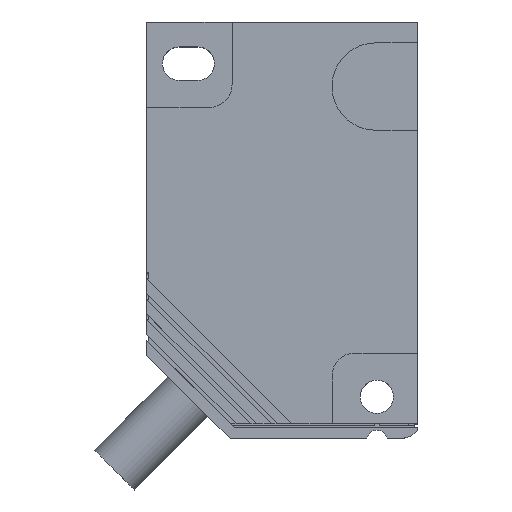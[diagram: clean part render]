
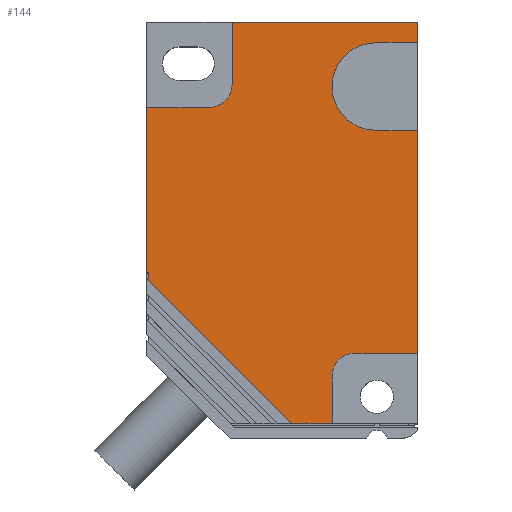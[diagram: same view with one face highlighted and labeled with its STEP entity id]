
A CAD part, top view. The second image highlights one B-rep face of the part: STEP entity #144.
In plain terms, the highlighted planar face has unit normal (0, 0, 1).
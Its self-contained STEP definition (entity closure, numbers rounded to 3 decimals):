
#144 = ADVANCED_FACE( '', ( #424 ), #425, .T. );
#424 = FACE_OUTER_BOUND( '', #846, .T. );
#425 = PLANE( '', #847 );
#846 = EDGE_LOOP( '', ( #1712, #1713, #1714, #1715, #1716, #1717, #1718, #1719, #1720, #1721, #1722, #1723, #1724, #1725, #1726, #1727, #1728, #1729 ) );
#847 = AXIS2_PLACEMENT_3D( '', #1730, #1731, #1732 );
#1712 = ORIENTED_EDGE( '', *, *, #3019, .T. );
#1713 = ORIENTED_EDGE( '', *, *, #3020, .T. );
#1714 = ORIENTED_EDGE( '', *, *, #3021, .T. );
#1715 = ORIENTED_EDGE( '', *, *, #2787, .T. );
#1716 = ORIENTED_EDGE( '', *, *, #3022, .T. );
#1717 = ORIENTED_EDGE( '', *, *, #3023, .F. );
#1718 = ORIENTED_EDGE( '', *, *, #3024, .T. );
#1719 = ORIENTED_EDGE( '', *, *, #3025, .T. );
#1720 = ORIENTED_EDGE( '', *, *, #3026, .T. );
#1721 = ORIENTED_EDGE( '', *, *, #3027, .F. );
#1722 = ORIENTED_EDGE( '', *, *, #3028, .T. );
#1723 = ORIENTED_EDGE( '', *, *, #3029, .T. );
#1724 = ORIENTED_EDGE( '', *, *, #3030, .T. );
#1725 = ORIENTED_EDGE( '', *, *, #3031, .T. );
#1726 = ORIENTED_EDGE( '', *, *, #3032, .F. );
#1727 = ORIENTED_EDGE( '', *, *, #3033, .T. );
#1728 = ORIENTED_EDGE( '', *, *, #3034, .T. );
#1729 = ORIENTED_EDGE( '', *, *, #3035, .F. );
#1730 = CARTESIAN_POINT( '', ( 7., 6., 5.75 ) );
#1731 = DIRECTION( '', ( 0., 0., 1. ) );
#1732 = DIRECTION( '', ( 1., 0., 0. ) );
#2787 = EDGE_CURVE( '', #3357, #3355, #3358, .T. );
#3019 = EDGE_CURVE( '', #3761, #3762, #3763, .T. );
#3020 = EDGE_CURVE( '', #3762, #3764, #3765, .T. );
#3021 = EDGE_CURVE( '', #3764, #3357, #3766, .T. );
#3022 = EDGE_CURVE( '', #3355, #3767, #3768, .T. );
#3023 = EDGE_CURVE( '', #3769, #3767, #3770, .T. );
#3024 = EDGE_CURVE( '', #3769, #3771, #3772, .T. );
#3025 = EDGE_CURVE( '', #3771, #3773, #3774, .T. );
#3026 = EDGE_CURVE( '', #3773, #3775, #3776, .T. );
#3027 = EDGE_CURVE( '', #3777, #3775, #3778, .T. );
#3028 = EDGE_CURVE( '', #3777, #3779, #3780, .T. );
#3029 = EDGE_CURVE( '', #3779, #3781, #3782, .T. );
#3030 = EDGE_CURVE( '', #3781, #3783, #3784, .T. );
#3031 = EDGE_CURVE( '', #3783, #3785, #3786, .T. );
#3032 = EDGE_CURVE( '', #3787, #3785, #3788, .T. );
#3033 = EDGE_CURVE( '', #3787, #3789, #3790, .T. );
#3034 = EDGE_CURVE( '', #3789, #3791, #3792, .T. );
#3035 = EDGE_CURVE( '', #3761, #3791, #3793, .T. );
#3355 = VERTEX_POINT( '', #4267 );
#3357 = VERTEX_POINT( '', #4270 );
#3358 = LINE( '', #4271, #4272 );
#3761 = VERTEX_POINT( '', #4860 );
#3762 = VERTEX_POINT( '', #4861 );
#3763 = LINE( '', #4862, #4863 );
#3764 = VERTEX_POINT( '', #4864 );
#3765 = LINE( '', #4865, #4866 );
#3766 = LINE( '', #4867, #4868 );
#3767 = VERTEX_POINT( '', #4869 );
#3768 = LINE( '', #4870, #4871 );
#3769 = VERTEX_POINT( '', #4872 );
#3770 = CIRCLE( '', #4873, 2.2 );
#3771 = VERTEX_POINT( '', #4874 );
#3772 = LINE( '', #4875, #4876 );
#3773 = VERTEX_POINT( '', #4877 );
#3774 = LINE( '', #4878, #4879 );
#3775 = VERTEX_POINT( '', #4880 );
#3776 = LINE( '', #4881, #4882 );
#3777 = VERTEX_POINT( '', #4883 );
#3778 = CIRCLE( '', #4884, 4.2 );
#3779 = VERTEX_POINT( '', #4885 );
#3780 = LINE( '', #4886, #4887 );
#3781 = VERTEX_POINT( '', #4888 );
#3782 = LINE( '', #4889, #4890 );
#3783 = VERTEX_POINT( '', #4891 );
#3784 = LINE( '', #4892, #4893 );
#3785 = VERTEX_POINT( '', #4894 );
#3786 = LINE( '', #4895, #4896 );
#3787 = VERTEX_POINT( '', #4897 );
#3788 = CIRCLE( '', #4898, 2.2 );
#3789 = VERTEX_POINT( '', #4899 );
#3790 = LINE( '', #4900, #4901 );
#3791 = VERTEX_POINT( '', #4902 );
#3792 = LINE( '', #4903, #4904 );
#3793 = LINE( '', #4905, #4906 );
#4267 = CARTESIAN_POINT( '', ( 4.8, 1.4, 5.75 ) );
#4270 = CARTESIAN_POINT( '', ( 0.95, 1.4, 5.75 ) );
#4271 = CARTESIAN_POINT( '', ( 0.95, 1.4, 5.75 ) );
#4272 = VECTOR( '', #5421, 1000. );
#4860 = CARTESIAN_POINT( '', ( -12.8, 15.9, 5.75 ) );
#4861 = CARTESIAN_POINT( '', ( -12.8, 15.33, 5.75 ) );
#4862 = CARTESIAN_POINT( '', ( -12.8, 15.9, 5.75 ) );
#4863 = VECTOR( '', #5745, 1000. );
#4864 = CARTESIAN_POINT( '', ( -12.98, 15.33, 5.75 ) );
#4865 = CARTESIAN_POINT( '', ( -12.8, 15.33, 5.75 ) );
#4866 = VECTOR( '', #5746, 1000. );
#4867 = CARTESIAN_POINT( '', ( -13., 15.35, 5.75 ) );
#4868 = VECTOR( '', #5747, 1000. );
#4869 = CARTESIAN_POINT( '', ( 4.8, 6., 5.75 ) );
#4870 = CARTESIAN_POINT( '', ( 4.8, 1.4, 5.75 ) );
#4871 = VECTOR( '', #5748, 1000. );
#4872 = CARTESIAN_POINT( '', ( 7., 8.2, 5.75 ) );
#4873 = AXIS2_PLACEMENT_3D( '', #5749, #5750, #5751 );
#4874 = CARTESIAN_POINT( '', ( 13., 8.2, 5.75 ) );
#4875 = CARTESIAN_POINT( '', ( 7., 8.2, 5.75 ) );
#4876 = VECTOR( '', #5752, 1000. );
#4877 = CARTESIAN_POINT( '', ( 13., 29.6, 5.75 ) );
#4878 = CARTESIAN_POINT( '', ( 13., 8.2, 5.75 ) );
#4879 = VECTOR( '', #5753, 1000. );
#4880 = CARTESIAN_POINT( '', ( 9., 29.6, 5.75 ) );
#4881 = CARTESIAN_POINT( '', ( 13., 29.6, 5.75 ) );
#4882 = VECTOR( '', #5754, 1000. );
#4883 = CARTESIAN_POINT( '', ( 9., 38., 5.75 ) );
#4884 = AXIS2_PLACEMENT_3D( '', #5755, #5756, #5757 );
#4885 = CARTESIAN_POINT( '', ( 13., 38., 5.75 ) );
#4886 = CARTESIAN_POINT( '', ( 9., 38., 5.75 ) );
#4887 = VECTOR( '', #5758, 1000. );
#4888 = CARTESIAN_POINT( '', ( 13., 40., 5.75 ) );
#4889 = CARTESIAN_POINT( '', ( 13., 38., 5.75 ) );
#4890 = VECTOR( '', #5759, 1000. );
#4891 = CARTESIAN_POINT( '', ( -4.8, 40., 5.75 ) );
#4892 = CARTESIAN_POINT( '', ( 13., 40., 5.75 ) );
#4893 = VECTOR( '', #5760, 1000. );
#4894 = CARTESIAN_POINT( '', ( -4.8, 33.998, 5.75 ) );
#4895 = CARTESIAN_POINT( '', ( -4.8, 40., 5.75 ) );
#4896 = VECTOR( '', #5761, 1000. );
#4897 = CARTESIAN_POINT( '', ( -7., 31.798, 5.75 ) );
#4898 = AXIS2_PLACEMENT_3D( '', #5762, #5763, #5764 );
#4899 = CARTESIAN_POINT( '', ( -13., 31.798, 5.75 ) );
#4900 = CARTESIAN_POINT( '', ( -7., 31.798, 5.75 ) );
#4901 = VECTOR( '', #5765, 1000. );
#4902 = CARTESIAN_POINT( '', ( -13., 15.9, 5.75 ) );
#4903 = CARTESIAN_POINT( '', ( -13., 31.798, 5.75 ) );
#4904 = VECTOR( '', #5766, 1000. );
#4905 = CARTESIAN_POINT( '', ( -12.8, 15.9, 5.75 ) );
#4906 = VECTOR( '', #5767, 1000. );
#5421 = DIRECTION( '', ( 1., 0., 0. ) );
#5745 = DIRECTION( '', ( 0., -1., 0. ) );
#5746 = DIRECTION( '', ( -1., 0., 0. ) );
#5747 = DIRECTION( '', ( 0.707, -0.707, 0. ) );
#5748 = DIRECTION( '', ( 0., 1., 0. ) );
#5749 = CARTESIAN_POINT( '', ( 7., 6., 5.75 ) );
#5750 = DIRECTION( '', ( 0., 0., 1. ) );
#5751 = DIRECTION( '', ( 1., 0., 0. ) );
#5752 = DIRECTION( '', ( 1., 0., 0. ) );
#5753 = DIRECTION( '', ( 0., 1., 0. ) );
#5754 = DIRECTION( '', ( -1., 0., 0. ) );
#5755 = CARTESIAN_POINT( '', ( 9., 33.8, 5.75 ) );
#5756 = DIRECTION( '', ( 0., 0., 1. ) );
#5757 = DIRECTION( '', ( 1., 0., 0. ) );
#5758 = DIRECTION( '', ( 1., 0., 0. ) );
#5759 = DIRECTION( '', ( 0., 1., 0. ) );
#5760 = DIRECTION( '', ( -1., 0., 0. ) );
#5761 = DIRECTION( '', ( 0., -1., 0. ) );
#5762 = CARTESIAN_POINT( '', ( -7., 33.998, 5.75 ) );
#5763 = DIRECTION( '', ( 0., 0., 1. ) );
#5764 = DIRECTION( '', ( 1., 0., 0. ) );
#5765 = DIRECTION( '', ( -1., 0., 0. ) );
#5766 = DIRECTION( '', ( 0., -1., 0. ) );
#5767 = DIRECTION( '', ( -1., 0., 0. ) );
